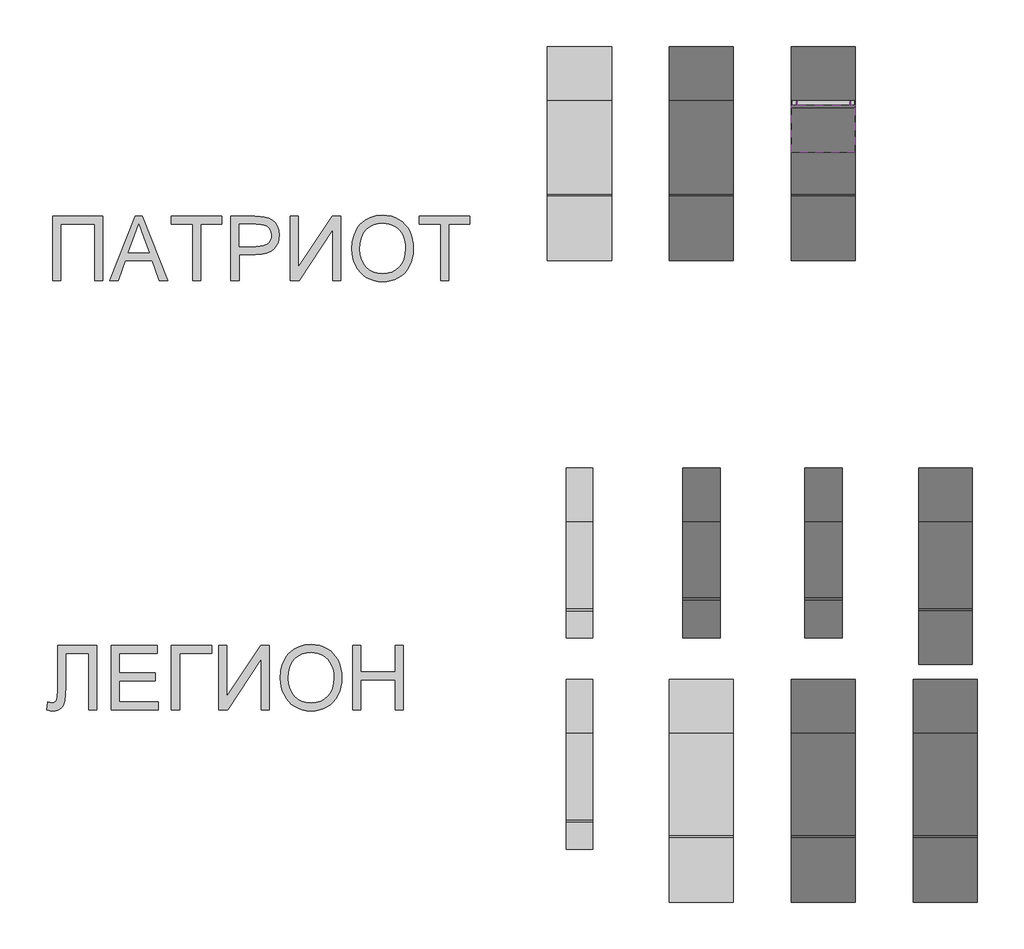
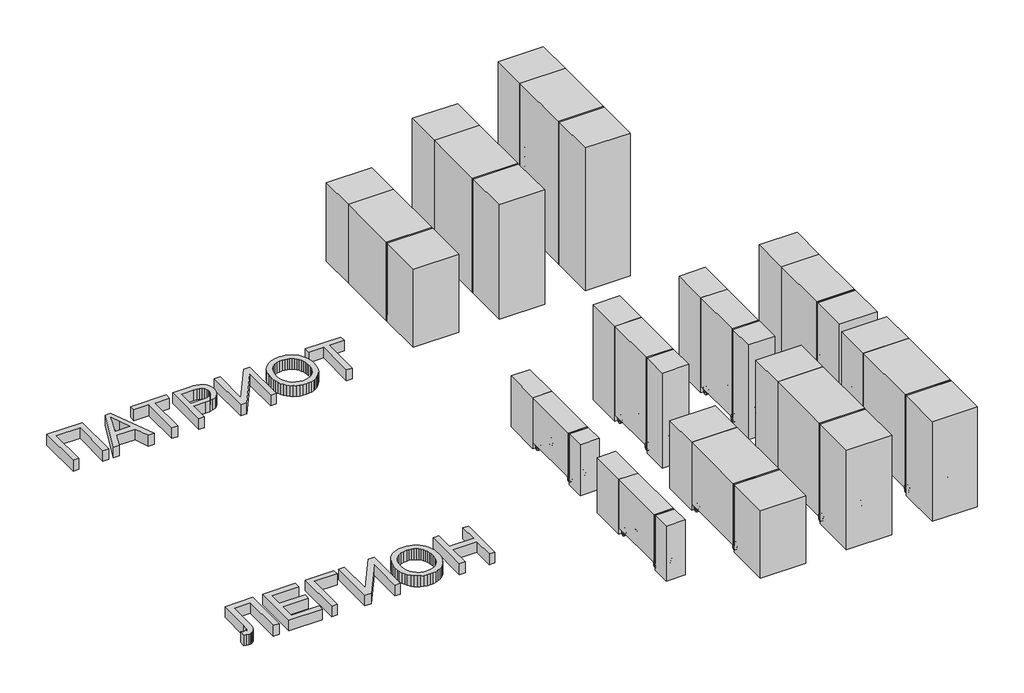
# One storey: 29 proxies.
"""IFC4 building model written with IfcOpenShell, lengths in millimetres."""

from ifc_helpers import new_model, si_unit, origin, origin_with_axes, place, context, project, spatial, polyline, outline, extrude, transform, mapped, element, save
from components import electrical_equipment_ab1b914d, electrical_equipment_290f26a5, electrical_equipment_3875015f, electrical_equipment_cef4c6c6, electrical_equipment_3741b5e4, electrical_equipment_600f0f6b, electrical_equipment_19901179, electrical_equipment_480f16ba, electrical_equipment_28520774, electrical_equipment_faf3a0b3

model = new_model("IFC4")

# Units and contexts
model_context = context("Model", 3, world=origin())
ifc_project = project(units=[si_unit("LENGTHUNIT", "METRE", prefix="MILLI")], contexts=[model_context])

# Site, building, storey
site = spatial("IfcSite", under=ifc_project)
building = spatial("IfcBuilding", under=site)
storey = spatial("IfcBuildingStorey", under=building, Name="Уровень 1", Elevation=0.0)

# Proxies
placement = place(None, origin())
element("IfcBuildingElementProxy", 1, Name="Текст модели 1", ObjectType="Текст модели 1", at=placement, inside=storey, context=model_context, shape_type="SweptSolid", body=[
    extrude(outline(polyline([(-4323.6832834, 2212.834089), (-3852.7943296, 2212.834089), (-3852.7943296, 1610.0962281), (-3928.1365622, 1610.0962281), (-3928.1365622, 2137.4918564), (-4248.3410508, 2137.4918564), (-4248.3410508, 1610.0962281), (-4323.6832834, 1610.0962281), (-4323.6832834, 2212.834089)])), origin_with_axes(), (0.0, 0.0, 1.0), 150.0),
    extrude(outline(polyline([(-3791.1373072, 1610.0962281), (-3550.5424823, 2212.834089), (-3486.3838624, 2212.834089), (-3245.7890375, 1610.0962281), (-3325.3987013, 1610.0962281), (-3394.4133636, 1798.4518097), (-3642.6601339, 1798.4518097), (-3711.5276434, 1610.0962281), (-3791.1373072, 1610.0962281)]), holes=[polyline([(-3614.9954079, 1873.7940423), (-3421.9309368, 1873.7940423), (-3476.2303193, 2021.9769099), (-3518.4631723, 2137.4918564), (-3555.9871358, 2034.9263562), (-3614.9954079, 1873.7940423)])]), origin_with_axes(), (0.0, 0.0, 1.0), 150.0),
    extrude(outline(polyline([(-3014.6119917, 1610.0962281), (-3014.6119917, 2137.4918564), (-3212.3853524, 2137.4918564), (-3212.3853524, 2212.834089), (-2741.4963985, 2212.834089), (-2741.4963985, 2137.4918564), (-2939.2697591, 2137.4918564), (-2939.2697591, 1610.0962281), (-3014.6119917, 1610.0962281)])), origin_with_axes(), (0.0, 0.0, 1.0), 150.0),
    extrude(outline(polyline([(-2656.7363868, 1610.0962281), (-2656.7363868, 2212.834089), (-2433.3584394, 2212.834089), (-2381.3399252, 2211.3993493), (-2343.3009269, 2207.0951299), (-2303.1466072, 2196.3713698), (-2270.0924099, 2178.9153691), (-2243.4761476, 2153.9361816), (-2222.6356325, 2120.6428611), (-2209.1711515, 2081.3714581), (-2204.6829912, 2038.4580233), (-2207.7134191, 2001.4582917), (-2216.8047029, 1967.4200101), (-2231.9568426, 1936.3431785), (-2253.1698381, 1908.227797), (-2282.2922966, 1884.9224726), (-2321.1728249, 1868.2758124), (-2369.8114232, 1858.2878162), (-2428.2080914, 1854.9584841), (-2581.3941542, 1854.9584841), (-2581.3941542, 1610.0962281), (-2656.7363868, 1610.0962281)]), holes=[polyline([(-2581.3941542, 1930.3007168), (-2423.7935075, 1930.3007168), (-2387.557131, 1932.0297621), (-2356.9861372, 1937.2168983), (-2332.0805261, 1945.8621251), (-2312.8402977, 1957.9654428), (-2298.4837029, 1973.2049544), (-2288.2289923, 1991.2587634), (-2282.0761659, 2012.1268695), (-2280.0252238, 2035.809273), (-2284.862872, 2069.6544165), (-2299.3758167, 2098.2020593), (-2321.7614361, 2119.6863679), (-2350.2171085, 2132.3415085), (-2379.2797861, 2136.2042695), (-2425.5593411, 2137.4918564), (-2581.3941542, 2137.4918564), (-2581.3941542, 1930.3007168)])]), origin_with_axes(), (0.0, 0.0, 1.0), 150.0),
    extrude(outline(polyline([(-2101.0874213, 2212.834089), (-2025.7451887, 2212.834089), (-2025.7451887, 1735.4704121), (-1710.2495896, 2212.834089), (-1630.1984675, 2212.834089), (-1630.1984675, 1610.0962281), (-1705.5407001, 1610.0962281), (-1705.5407001, 2086.1355299), (-2020.3005352, 1610.0962281), (-2101.0874213, 1610.0962281), (-2101.0874213, 2212.834089)])), origin_with_axes(), (0.0, 0.0, 1.0), 150.0),
    extrude(outline(polyline([(-1526.6028977, 1903.5189075), (-1521.5813084, 1974.2166299), (-1506.5165407, 2036.8025544), (-1481.4085945, 2091.2766808), (-1465.0884295, 2115.4718198), (-1446.2574699, 2137.6390092), (-1403.1692912, 2174.657135), (-1354.2501829, 2201.0986534), (-1299.500145, 2216.9635644), (-1238.9191774, 2222.2518681), (-1198.3693845, 2219.7686647), (-1159.8613367, 2212.3190543), (-1123.3950339, 2199.9030369), (-1088.9704762, 2182.5206126), (-1057.5533538, 2160.6960133), (-1030.109357, 2134.9534707), (-1006.6384857, 2105.2929848), (-987.1407399, 2071.7145557), (-971.8184548, 2034.9815385), (-960.8739655, 1995.8572883), (-954.3072719, 1954.3418051), (-952.118374, 1910.435089), (-954.422235, 1865.9489587), (-961.333818, 1823.8724555), (-972.8531229, 1784.2055794), (-988.9801499, 1746.9483304), (-1009.3332213, 1713.0847927), (-1033.5306595, 1683.5990508), (-1061.5724646, 1658.4911046), (-1093.4586365, 1637.7609542), (-1127.933778, 1621.5373582), (-1163.7424917, 1609.9490754), (-1200.8847777, 1602.9961056), (-1239.3606358, 1600.6784491), (-1280.6186016, 1603.2398275), (-1319.6324872, 1610.9239626), (-1356.4022926, 1623.7308546), (-1390.9280178, 1641.6605033), (-1422.308352, 1664.0185316), (-1449.6419843, 1690.1105621), (-1472.9289146, 1719.9365949), (-1492.1691429, 1753.4966299), (-1507.2339106, 1789.4432993), (-1517.994459, 1826.4292354), (-1524.450788, 1864.4544381), (-1526.6028977, 1903.5189075)]), holes=[polyline([(-1451.260665, 1902.7831435), (-1447.4944731, 1852.8339656), (-1436.1958973, 1808.4949881), (-1417.3649377, 1769.7662111), (-1391.0015942, 1736.6476345), (-1358.9544739, 1710.1233426), (-1323.0721838, 1691.1774199), (-1283.3547239, 1679.8098662), (-1239.8020942, 1676.0206817), (-1195.5045035, 1679.8466544), (-1155.317994, 1691.3245727), (-1119.2425659, 1710.4544364), (-1087.278219, 1737.2362457), (-1061.1080136, 1771.0537981), (-1042.4150097, 1811.2908913), (-1031.1992074, 1857.9475253), (-1027.4606066, 1911.0237002), (-1029.0608933, 1945.5034402), (-1033.8617533, 1977.7207059), (-1041.8631867, 2007.6754974), (-1053.0651935, 2035.3678146), (-1067.3436134, 2060.434374), (-1084.5742864, 2082.5118923), (-1104.7572123, 2101.6003693), (-1127.8923913, 2117.6998051), (-1153.2624534, 2130.4791059), (-1180.1500287, 2139.6071779), (-1208.5551173, 2145.0840211), (-1238.477719, 2146.9096355), (-1280.517434, 2143.3917639), (-1319.5221226, 2132.8381492), (-1355.4917846, 2115.2487913), (-1388.4264203, 2090.6236902), (-1415.9164024, 2057.7764266), (-1435.5521038, 2015.5205809), (-1447.3335247, 1963.8561532), (-1451.260665, 1902.7831435)])]), origin_with_axes(), (0.0, 0.0, 1.0), 150.0),
    extrude(outline(polyline([(-697.8383389, 1610.0962281), (-697.8383389, 2137.4918564), (-895.6116995, 2137.4918564), (-895.6116995, 2212.834089), (-424.7227457, 2212.834089), (-424.7227457, 2137.4918564), (-622.4961063, 2137.4918564), (-622.4961063, 1610.0962281), (-697.8383389, 1610.0962281)])), origin_with_axes(), (0.0, 0.0, 1.0), 150.0),
])
element("IfcBuildingElementProxy", 2, Name="Текст модели 1", ObjectType="Текст модели 1", at=placement, inside=storey, context=model_context, shape_type="SweptSolid", body=[
    extrude(outline(polyline([(-4276.594388, -1800.4128628), (-3909.301004, -1800.4128628), (-3909.301004, -2403.1507237), (-3984.6432366, -2403.1507237), (-3984.6432366, -1875.7550954), (-4201.2521554, -1875.7550954), (-4201.2521554, -2183.3044434), (-4203.4410533, -2264.4040292), (-4210.0077469, -2320.5244276), (-4223.5641984, -2359.2991899), (-4233.9430692, -2375.0445392), (-4246.72237, -2388.3618675), (-4261.6399849, -2398.9522704), (-4278.433798, -2406.5168439), (-4297.1038092, -2411.0555881), (-4317.6500187, -2412.5685028), (-4346.3080261, -2410.214058), (-4380.1899578, -2403.1507237), (-4370.7721788, -2327.8084911), (-4351.1640684, -2334.8718254), (-4334.7197432, -2337.2262701), (-4309.2439151, -2332.1678927), (-4291.0889386, -2316.9927604), (-4284.7475727, -2303.4501045), (-4280.2180257, -2283.0556464), (-4276.594388, -2221.7113237), (-4276.594388, -1800.4128628)])), origin_with_axes(), (0.0, 0.0, 1.0), 150.0),
    extrude(outline(polyline([(-3777.4520969, -2403.1507237), (-3777.4520969, -1800.4128628), (-3344.2342594, -1800.4128628), (-3344.2342594, -1875.7550954), (-3702.1098643, -1875.7550954), (-3702.1098643, -2054.6928978), (-3363.0698176, -2054.6928978), (-3363.0698176, -2130.0351305), (-3702.1098643, -2130.0351305), (-3702.1098643, -2327.8084911), (-3334.8164803, -2327.8084911), (-3334.8164803, -2403.1507237), (-3777.4520969, -2403.1507237)])), origin_with_axes(), (0.0, 0.0, 1.0), 150.0),
    extrude(outline(polyline([(-3212.3853524, -1800.4128628), (-2835.6741893, -1800.4128628), (-2835.6741893, -1875.7550954), (-3137.0431197, -1875.7550954), (-3137.0431197, -2403.1507237), (-3212.3853524, -2403.1507237), (-3212.3853524, -1800.4128628)])), origin_with_axes(), (0.0, 0.0, 1.0), 150.0),
    extrude(outline(polyline([(-2769.7497358, -1800.4128628), (-2694.4075031, -1800.4128628), (-2694.4075031, -2277.7765397), (-2378.9119041, -1800.4128628), (-2298.8607819, -1800.4128628), (-2298.8607819, -2403.1507237), (-2374.2030145, -2403.1507237), (-2374.2030145, -1927.1114219), (-2688.9628496, -2403.1507237), (-2769.7497358, -2403.1507237), (-2769.7497358, -1800.4128628)])), origin_with_axes(), (0.0, 0.0, 1.0), 150.0),
    extrude(outline(polyline([(-2195.2652121, -2109.7280443), (-2190.2436229, -2039.0303219), (-2175.1788552, -1976.4443975), (-2150.070909, -1921.970271), (-2133.750744, -1897.7751321), (-2114.9197843, -1875.6079426), (-2071.8316057, -1838.5898168), (-2022.9124973, -1812.1482984), (-1968.1624594, -1796.2833874), (-1907.5814919, -1790.9950837), (-1867.0316989, -1793.4782872), (-1828.5236511, -1800.9278976), (-1792.0573483, -1813.3439149), (-1757.6327906, -1830.7263392), (-1726.2156682, -1852.5509385), (-1698.7716714, -1878.2934812), (-1675.3008001, -1907.953967), (-1655.8030544, -1941.5323961), (-1640.4807693, -1978.2654134), (-1629.5362799, -2017.3896635), (-1622.9695863, -2058.9051467), (-1620.7806884, -2102.8118628), (-1623.0845494, -2147.2979931), (-1629.9961324, -2189.3744963), (-1641.5154374, -2229.0413724), (-1657.6424643, -2266.2986215), (-1677.9955357, -2300.1621591), (-1702.192974, -2329.647901), (-1730.234779, -2354.7558472), (-1762.120951, -2375.4859976), (-1796.5960924, -2391.7095936), (-1832.4048061, -2403.2978765), (-1869.5470921, -2410.2508462), (-1908.0229503, -2412.5685028), (-1949.280916, -2410.0071244), (-1988.2948016, -2402.3229892), (-2025.064607, -2389.5160972), (-2059.5903323, -2371.5864485), (-2090.9706665, -2349.2284202), (-2118.3042987, -2323.1363897), (-2141.591229, -2293.310357), (-2160.8314573, -2259.750322), (-2175.896225, -2223.8036525), (-2186.6567734, -2186.8177164), (-2193.1131024, -2148.7925137), (-2195.2652121, -2109.7280443)]), holes=[polyline([(-2119.9229795, -2110.4638083), (-2116.1567876, -2160.4129862), (-2104.8582118, -2204.7519637), (-2086.0272521, -2243.4807407), (-2059.6639087, -2276.5993173), (-2027.6167884, -2303.1236092), (-1991.7344983, -2322.0695319), (-1952.0170384, -2333.4370856), (-1908.4644086, -2337.2262701), (-1864.1668179, -2333.4002974), (-1823.9803085, -2321.9223791), (-1787.9048803, -2302.7925154), (-1755.9405334, -2276.0107061), (-1729.770328, -2242.1931537), (-1711.0773241, -2201.9560605), (-1699.8615218, -2155.2994265), (-1696.122921, -2102.2232516), (-1697.7232077, -2067.7435116), (-1702.5240677, -2035.5262459), (-1710.5255011, -2005.5714544), (-1721.7275079, -1977.8791373), (-1736.0059278, -1952.8125778), (-1753.2366008, -1930.7350596), (-1773.4195267, -1911.6465825), (-1796.5547057, -1895.5471467), (-1821.9247678, -1882.7678459), (-1848.8123431, -1873.6397739), (-1877.2174317, -1868.1629307), (-1907.1400335, -1866.3373163), (-1949.1797485, -1869.8551879), (-1988.184437, -1880.4088026), (-2024.1540991, -1897.9981605), (-2057.0887347, -1922.6232616), (-2084.5787168, -1955.4705252), (-2104.2144183, -1997.7263709), (-2115.9958392, -2049.3907986), (-2119.9229795, -2110.4638083)])]), origin_with_axes(), (0.0, 0.0, 1.0), 150.0),
    extrude(outline(polyline([(-1517.1851186, -2403.1507237), (-1517.1851186, -1800.4128628), (-1441.842886, -1800.4128628), (-1441.842886, -2045.2751188), (-1121.6383974, -2045.2751188), (-1121.6383974, -1800.4128628), (-1046.2961648, -1800.4128628), (-1046.2961648, -2403.1507237), (-1121.6383974, -2403.1507237), (-1121.6383974, -2120.6173514), (-1441.842886, -2120.6173514), (-1441.842886, -2403.1507237), (-1517.1851186, -2403.1507237)])), origin_with_axes(), (0.0, 0.0, 1.0), 150.0),
])
electrical_equipment_shape = electrical_equipment_ab1b914d(model_context)
element("IfcBuildingElementProxy", 3, Name="Силовой модуль_ПАТРИОТ-20Ш_СайберЭлектро : ПАТРИОТ-20М", ObjectType="Силовой модуль_ПАТРИОТ-20Ш_СайберЭлектро : ПАТРИОТ-20М", at=placement, inside=storey, context=model_context, shape_type="MappedRepresentation", body=[
    mapped(electrical_equipment_shape, transform((1740.0, 2810.0, 410.0), x_axis=(-1.0, 0.0, 0.0), y_axis=(0.0, -1.0, 0.0), z_axis=(0.0, 0.0, 1.0))),
])
element("IfcBuildingElementProxy", 4, Name="Силовой модуль_ПАТРИОТ-20Ш_СайберЭлектро : ПАТРИОТ-20М", ObjectType="Силовой модуль_ПАТРИОТ-20Ш_СайберЭлектро : ПАТРИОТ-20М", at=placement, inside=storey, context=model_context, shape_type="MappedRepresentation", body=[
    mapped(electrical_equipment_shape, transform((1740.0, 2810.0, 276.0), x_axis=(-1.0, 0.0, 0.0), y_axis=(0.0, -1.0, 0.0), z_axis=(0.0, 0.0, 1.0))),
])
element("IfcBuildingElementProxy", 5, Name="Силовой модуль_ПАТРИОТ-20Ш_СайберЭлектро : ПАТРИОТ-20М", ObjectType="Силовой модуль_ПАТРИОТ-20Ш_СайберЭлектро : ПАТРИОТ-20М", at=placement, inside=storey, context=model_context, shape_type="MappedRepresentation", body=[
    mapped(electrical_equipment_shape, transform((1740.0, 2810.0, 142.0), x_axis=(-1.0, 0.0, 0.0), y_axis=(0.0, -1.0, 0.0), z_axis=(0.0, 0.0, 1.0))),
])
element("IfcBuildingElementProxy", 6, Name="Силовой модуль_ПАТРИОТ-20Ш_СайберЭлектро : ПАТРИОТ-20М", ObjectType="Силовой модуль_ПАТРИОТ-20Ш_СайберЭлектро : ПАТРИОТ-20М", at=placement, inside=storey, context=model_context, shape_type="MappedRepresentation", body=[
    mapped(electrical_equipment_shape, transform((1740.0, 2810.0, 812.0), x_axis=(-1.0, 0.0, 0.0), y_axis=(0.0, -1.0, 0.0), z_axis=(0.0, 0.0, 1.0))),
])
element("IfcBuildingElementProxy", 7, Name="Силовой модуль_ПАТРИОТ-20Ш_СайберЭлектро : ПАТРИОТ-20М", ObjectType="Силовой модуль_ПАТРИОТ-20Ш_СайберЭлектро : ПАТРИОТ-20М", at=placement, inside=storey, context=model_context, shape_type="MappedRepresentation", body=[
    mapped(electrical_equipment_shape, transform((1740.0, 2810.0, 678.0), x_axis=(-1.0, 0.0, 0.0), y_axis=(0.0, -1.0, 0.0), z_axis=(0.0, 0.0, 1.0))),
])
element("IfcBuildingElementProxy", 8, Name="Силовой модуль_ПАТРИОТ-20Ш_СайберЭлектро : ПАТРИОТ-20М", ObjectType="Силовой модуль_ПАТРИОТ-20Ш_СайберЭлектро : ПАТРИОТ-20М", at=placement, inside=storey, context=model_context, shape_type="MappedRepresentation", body=[
    mapped(electrical_equipment_shape, transform((1740.0, 2810.0, 544.0), x_axis=(-1.0, 0.0, 0.0), y_axis=(0.0, -1.0, 0.0), z_axis=(0.0, 0.0, 1.0))),
])
element("IfcBuildingElementProxy", 9, Name="Силовой модуль_ПАТРИОТ-20Ш_СайберЭлектро : ПАТРИОТ-20М", ObjectType="Силовой модуль_ПАТРИОТ-20Ш_СайберЭлектро : ПАТРИОТ-20М", at=placement, inside=storey, context=model_context, shape_type="MappedRepresentation", body=[
    mapped(electrical_equipment_shape, transform((2880.0, 2810.0, 410.0), x_axis=(-1.0, 0.0, 0.0), y_axis=(0.0, -1.0, 0.0), z_axis=(0.0, 0.0, 1.0))),
])
element("IfcBuildingElementProxy", 10, Name="Силовой модуль_ПАТРИОТ-20Ш_СайберЭлектро : ПАТРИОТ-20М", ObjectType="Силовой модуль_ПАТРИОТ-20Ш_СайберЭлектро : ПАТРИОТ-20М", at=placement, inside=storey, context=model_context, shape_type="MappedRepresentation", body=[
    mapped(electrical_equipment_shape, transform((2880.0, 2810.0, 276.0), x_axis=(-1.0, 0.0, 0.0), y_axis=(0.0, -1.0, 0.0), z_axis=(0.0, 0.0, 1.0))),
])
element("IfcBuildingElementProxy", 11, Name="Силовой модуль_ПАТРИОТ-20Ш_СайберЭлектро : ПАТРИОТ-20М", ObjectType="Силовой модуль_ПАТРИОТ-20Ш_СайберЭлектро : ПАТРИОТ-20М", at=placement, inside=storey, context=model_context, shape_type="MappedRepresentation", body=[
    mapped(electrical_equipment_shape, transform((2880.0, 2810.0, 142.0), x_axis=(-1.0, 0.0, 0.0), y_axis=(0.0, -1.0, 0.0), z_axis=(0.0, 0.0, 1.0))),
])
element("IfcBuildingElementProxy", 12, Name="Силовой модуль_ПАТРИОТ-20Ш_СайберЭлектро : ПАТРИОТ-20М", ObjectType="Силовой модуль_ПАТРИОТ-20Ш_СайберЭлектро : ПАТРИОТ-20М", at=placement, inside=storey, context=model_context, shape_type="MappedRepresentation", body=[
    mapped(electrical_equipment_shape, transform((2880.0, 2810.0, 812.0), x_axis=(-1.0, 0.0, 0.0), y_axis=(0.0, -1.0, 0.0), z_axis=(0.0, 0.0, 1.0))),
])
element("IfcBuildingElementProxy", 13, Name="Силовой модуль_ПАТРИОТ-20Ш_СайберЭлектро : ПАТРИОТ-20М", ObjectType="Силовой модуль_ПАТРИОТ-20Ш_СайберЭлектро : ПАТРИОТ-20М", at=placement, inside=storey, context=model_context, shape_type="MappedRepresentation", body=[
    mapped(electrical_equipment_shape, transform((2880.0, 2810.0, 678.0), x_axis=(-1.0, 0.0, 0.0), y_axis=(0.0, -1.0, 0.0), z_axis=(0.0, 0.0, 1.0))),
])
element("IfcBuildingElementProxy", 14, Name="Силовой модуль_ПАТРИОТ-20Ш_СайберЭлектро : ПАТРИОТ-20М", ObjectType="Силовой модуль_ПАТРИОТ-20Ш_СайберЭлектро : ПАТРИОТ-20М", at=placement, inside=storey, context=model_context, shape_type="MappedRepresentation", body=[
    mapped(electrical_equipment_shape, transform((2880.0, 2810.0, 544.0), x_axis=(-1.0, 0.0, 0.0), y_axis=(0.0, -1.0, 0.0), z_axis=(0.0, 0.0, 1.0))),
])
element("IfcBuildingElementProxy", 15, Name="Силовой модуль_ПАТРИОТ-20Ш_СайберЭлектро : ПАТРИОТ-20М", ObjectType="Силовой модуль_ПАТРИОТ-20Ш_СайберЭлектро : ПАТРИОТ-20М", at=placement, inside=storey, context=model_context, shape_type="MappedRepresentation", body=[
    mapped(electrical_equipment_shape, transform((2880.0, 2810.0, 1348.0), x_axis=(-1.0, 0.0, 0.0), y_axis=(0.0, -1.0, 0.0), z_axis=(0.0, 0.0, 1.0))),
])
element("IfcBuildingElementProxy", 16, Name="Силовой модуль_ПАТРИОТ-20Ш_СайберЭлектро : ПАТРИОТ-20М", ObjectType="Силовой модуль_ПАТРИОТ-20Ш_СайберЭлектро : ПАТРИОТ-20М", at=placement, inside=storey, context=model_context, shape_type="MappedRepresentation", body=[
    mapped(electrical_equipment_shape, transform((2880.0, 2810.0, 1214.0), x_axis=(-1.0, 0.0, 0.0), y_axis=(0.0, -1.0, 0.0), z_axis=(0.0, 0.0, 1.0))),
])
element("IfcBuildingElementProxy", 17, Name="Силовой модуль_ПАТРИОТ-20Ш_СайберЭлектро : ПАТРИОТ-20М", ObjectType="Силовой модуль_ПАТРИОТ-20Ш_СайберЭлектро : ПАТРИОТ-20М", at=placement, inside=storey, context=model_context, shape_type="MappedRepresentation", body=[
    mapped(electrical_equipment_shape, transform((2880.0, 2810.0, 1080.0), x_axis=(-1.0, 0.0, 0.0), y_axis=(0.0, -1.0, 0.0), z_axis=(0.0, 0.0, 1.0))),
])
element("IfcBuildingElementProxy", 18, Name="Силовой модуль_ПАТРИОТ-20Ш_СайберЭлектро : ПАТРИОТ-20М", ObjectType="Силовой модуль_ПАТРИОТ-20Ш_СайберЭлектро : ПАТРИОТ-20М", at=placement, inside=storey, context=model_context, shape_type="MappedRepresentation", body=[
    mapped(electrical_equipment_shape, transform((2880.0, 2810.0, 946.0), x_axis=(-1.0, 0.0, 0.0), y_axis=(0.0, -1.0, 0.0), z_axis=(0.0, 0.0, 1.0))),
])
electrical_equipment_2_shape = electrical_equipment_290f26a5(model_context)
element("IfcBuildingElementProxy", 19, Name="Трехфазный ИБП_ПАТРИОТ_СайберЭлектро : ПАТРИОТ-60Ш", ObjectType="Трехфазный ИБП_ПАТРИОТ_СайберЭлектро : ПАТРИОТ-60Ш", at=placement, inside=storey, context=model_context, shape_type="MappedRepresentation", body=[
    mapped(electrical_equipment_2_shape, transform((600.0, 3300.0, 0.0), x_axis=(1.0, 0.0, 0.0), y_axis=(0.0, 1.0, 0.0), z_axis=(0.0, 0.0, 1.0))),
])
electrical_equipment_3_shape = electrical_equipment_3875015f(model_context)
element("IfcBuildingElementProxy", 20, Name="Трехфазный ИБП_ПАТРИОТ_СайберЭлектро : ПАТРИОТ-120Ш", ObjectType="Трехфазный ИБП_ПАТРИОТ_СайберЭлектро : ПАТРИОТ-120Ш", at=placement, inside=storey, context=model_context, shape_type="MappedRepresentation", body=[
    mapped(electrical_equipment_3_shape, transform((1740.0, 3300.0, 0.0), x_axis=(1.0, 0.0, 0.0), y_axis=(0.0, 1.0, 0.0), z_axis=(0.0, 0.0, 1.0))),
])
electrical_equipment_4_shape = electrical_equipment_cef4c6c6(model_context)
element("IfcBuildingElementProxy", 21, Name="Трехфазный ИБП_ПАТРИОТ_СайберЭлектро : ПАТРИОТ-200Ш", ObjectType="Трехфазный ИБП_ПАТРИОТ_СайберЭлектро : ПАТРИОТ-200Ш", at=placement, inside=storey, context=model_context, shape_type="MappedRepresentation", body=[
    mapped(electrical_equipment_4_shape, transform((2880.0, 3300.0, 0.0), x_axis=(1.0, 0.0, 0.0), y_axis=(0.0, 1.0, 0.0), z_axis=(0.0, 0.0, 1.0))),
])
electrical_equipment_5_shape = electrical_equipment_3741b5e4(model_context)
element("IfcBuildingElementProxy", 22, Name="Трехфазный ИБП_ЛЕГИОН_СайберЭлектро : ЛЕГИОН-3Ф-10К-Ш", ObjectType="Трехфазный ИБП_ЛЕГИОН_СайберЭлектро : ЛЕГИОН-3Ф-10К-Ш", at=placement, inside=storey, context=model_context, shape_type="MappedRepresentation", body=[
    mapped(electrical_equipment_5_shape, transform((600.0, -640.0, 0.0), x_axis=(1.0, 0.0, 0.0), y_axis=(0.0, 1.0, 0.0), z_axis=(0.0, 0.0, 1.0))),
])
electrical_equipment_6_shape = electrical_equipment_600f0f6b(model_context)
element("IfcBuildingElementProxy", 23, Name="Трехфазный ИБП_ЛЕГИОН_СайберЭлектро : ЛЕГИОН-3Ф-20К-Ш", ObjectType="Трехфазный ИБП_ЛЕГИОН_СайберЭлектро : ЛЕГИОН-3Ф-20К-Ш", at=placement, inside=storey, context=model_context, shape_type="MappedRepresentation", body=[
    mapped(electrical_equipment_6_shape, transform((1740.0, -640.0, 0.0), x_axis=(1.0, 0.0, 0.0), y_axis=(0.0, 1.0, 0.0), z_axis=(0.0, 0.0, 1.0))),
])
element("IfcBuildingElementProxy", 24, Name="Трехфазный ИБП_ЛЕГИОН_СайберЭлектро : ЛЕГИОН-3Ф-30К-Ш", ObjectType="Трехфазный ИБП_ЛЕГИОН_СайберЭлектро : ЛЕГИОН-3Ф-30К-Ш", at=placement, inside=storey, context=model_context, shape_type="MappedRepresentation", body=[
    mapped(electrical_equipment_6_shape, transform((2880.0, -640.0, 0.0), x_axis=(1.0, 0.0, 0.0), y_axis=(0.0, 1.0, 0.0), z_axis=(0.0, 0.0, 1.0))),
])
electrical_equipment_7_shape = electrical_equipment_19901179(model_context)
element("IfcBuildingElementProxy", 25, Name="Трехфазный ИБП_ЛЕГИОН_СайберЭлектро : ЛЕГИОН-3Ф-40К", ObjectType="Трехфазный ИБП_ЛЕГИОН_СайберЭлектро : ЛЕГИОН-3Ф-40К", at=placement, inside=storey, context=model_context, shape_type="MappedRepresentation", body=[
    mapped(electrical_equipment_7_shape, transform((600.0, -2620.0, 0.0), x_axis=(1.0, 0.0, 0.0), y_axis=(0.0, 1.0, 0.0), z_axis=(0.0, 0.0, 1.0))),
])
electrical_equipment_8_shape = electrical_equipment_480f16ba(model_context)
element("IfcBuildingElementProxy", 26, Name="Трехфазный ИБП_ЛЕГИОН_СайберЭлектро : ЛЕГИОН-3Ф-40К-Ш", ObjectType="Трехфазный ИБП_ЛЕГИОН_СайберЭлектро : ЛЕГИОН-3Ф-40К-Ш", at=placement, inside=storey, context=model_context, shape_type="MappedRepresentation", body=[
    mapped(electrical_equipment_8_shape, transform((4020.0, -640.0, 0.0), x_axis=(1.0, 0.0, 0.0), y_axis=(0.0, 1.0, 0.0), z_axis=(0.0, 0.0, 1.0))),
])
electrical_equipment_9_shape = electrical_equipment_28520774(model_context)
element("IfcBuildingElementProxy", 27, Name="Трехфазный ИБП_ЛЕГИОН_СайберЭлектро : ЛЕГИОН-3Ф-60К", ObjectType="Трехфазный ИБП_ЛЕГИОН_СайберЭлектро : ЛЕГИОН-3Ф-60К", at=placement, inside=storey, context=model_context, shape_type="MappedRepresentation", body=[
    mapped(electrical_equipment_9_shape, transform((1740.0, -2620.0, 0.0), x_axis=(1.0, 0.0, 0.0), y_axis=(0.0, 1.0, 0.0), z_axis=(0.0, 0.0, 1.0))),
])
electrical_equipment_10_shape = electrical_equipment_faf3a0b3(model_context)
element("IfcBuildingElementProxy", 28, Name="Трехфазный ИБП_ЛЕГИОН_СайберЭлектро : ЛЕГИОН-3Ф-90К", ObjectType="Трехфазный ИБП_ЛЕГИОН_СайберЭлектро : ЛЕГИОН-3Ф-90К", at=placement, inside=storey, context=model_context, shape_type="MappedRepresentation", body=[
    mapped(electrical_equipment_10_shape, transform((2880.0, -2620.0, 0.0), x_axis=(1.0, 0.0, 0.0), y_axis=(0.0, 1.0, 0.0), z_axis=(0.0, 0.0, 1.0))),
])
element("IfcBuildingElementProxy", 29, Name="Трехфазный ИБП_ЛЕГИОН_СайберЭлектро : ЛЕГИОН-3Ф-120К", ObjectType="Трехфазный ИБП_ЛЕГИОН_СайберЭлектро : ЛЕГИОН-3Ф-120К", at=placement, inside=storey, context=model_context, shape_type="MappedRepresentation", body=[
    mapped(electrical_equipment_10_shape, transform((4020.0, -2620.0, 0.0), x_axis=(1.0, 0.0, 0.0), y_axis=(0.0, 1.0, 0.0), z_axis=(0.0, 0.0, 1.0))),
])

save(model, "model.ifc")
